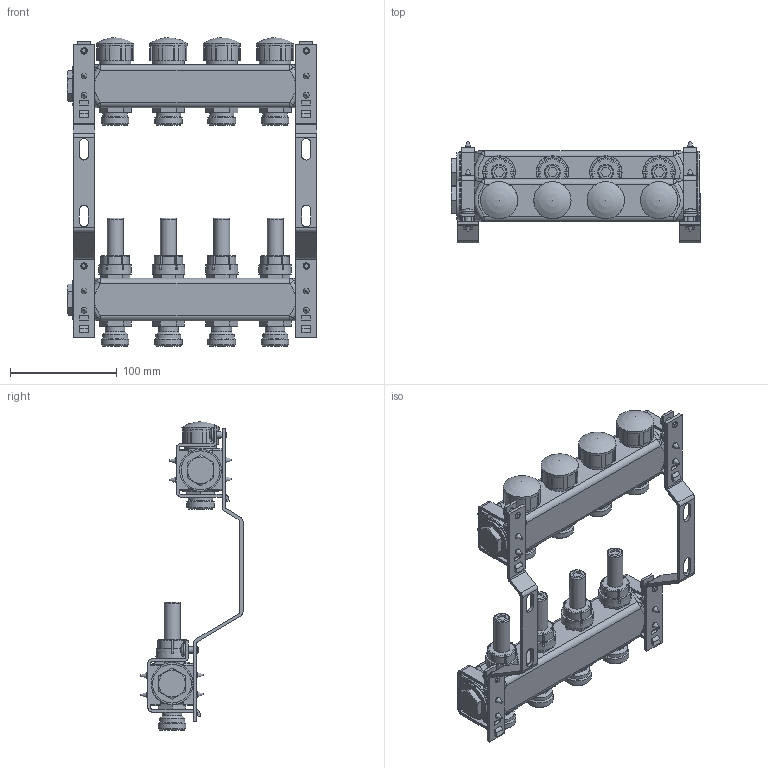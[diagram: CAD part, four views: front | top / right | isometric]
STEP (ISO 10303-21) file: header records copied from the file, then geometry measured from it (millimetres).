
FILE_DESCRIPTION(('STEP AP203'), '1');
FILE_NAME('VTc.584.EMNX.0604', '', ('UNSPECIFIED'), ('UNSPECIFIED'), 'C3D Converter', 'C3D Toolkit', '');
FILE_SCHEMA(('CONFIG_CONTROL_DESIGN'));
Length unit declared in the file: millimetre
Bounding box: 234.2 x 95.7 x 289.2 mm (x, y, z)
Volume: 989741.2 mm3; surface area: 166669.5 mm2
Topology: 1 solids, 1 shells, 1134 faces, 3140 edges, 2024 vertices
Faces by surface type: plane 672, cylinder 268, torus 88, cone 66, bspline 36, sphere 4
Full cylindrical faces by diameter (mm): 5.4 x16, 6 x8, 12 x4, 15 x4, 18.4 x4, 22.9 x4, 23.5 x4, 25.9 x4, 26 x4, 29.5 x4, 34.9 x4, 35.3 x2, 36.5 x2, 39.3 x4
Entity records: 47195 total; most frequent: CARTESIAN_POINT 19016, ORIENTED_EDGE 5956, DIRECTION 5590, EDGE_CURVE 2978, VERTEX_POINT 2016, AXIS2_PLACEMENT_3D 1937, LINE 1716, VECTOR 1716
